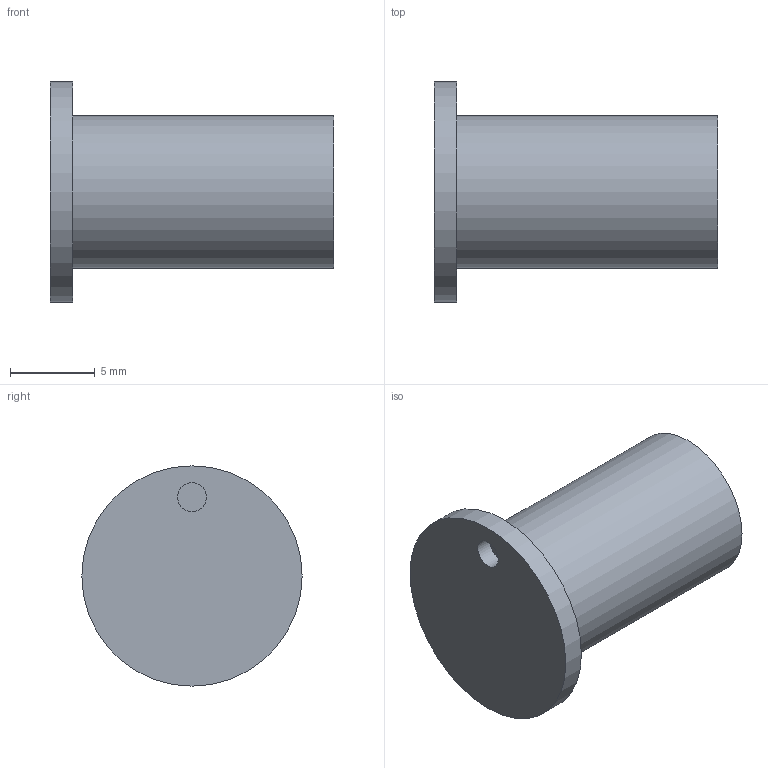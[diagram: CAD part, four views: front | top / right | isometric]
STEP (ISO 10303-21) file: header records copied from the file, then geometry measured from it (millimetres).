
FILE_DESCRIPTION( ('This file contains a STEP AP42 implementation' ,'as created by ZW3D STEP Interface translator.') ,'2;1' );
FILE_NAME( 'OGW-9.stp' ,'26 519. 71551', (''), ('ZWCAD Software Co.'), 'Version 1.0', 'ZW3D to STEP translator', '' );
FILE_SCHEMA(('AP242_MANAGED_MODEL_BASED_3D_ENGINEERING_MIM_LF { 1 0 10303 442 1 1 4 }'));
Length unit declared in the file: millimetre
Products named in the file (1): 0
Bounding box: 16.7 x 13 x 13 mm (x, y, z)
Volume: 557.3 mm3; surface area: 1098 mm2
Topology: 1 solids, 1 shells, 9 faces, 12 edges, 8 vertices
Faces by surface type: plane 5, cylinder 4
Full cylindrical faces by diameter (mm): 1.7 x1, 7 x1, 9 x1, 13 x1
Entity records: 223 total; most frequent: DIRECTION 40, CARTESIAN_POINT 30, ORIENTED_EDGE 24, AXIS2_PLACEMENT_3D 18, EDGE_CURVE 12, EDGE_LOOP 12, FACE_OUTER_BOUND 9, ADVANCED_FACE 9
